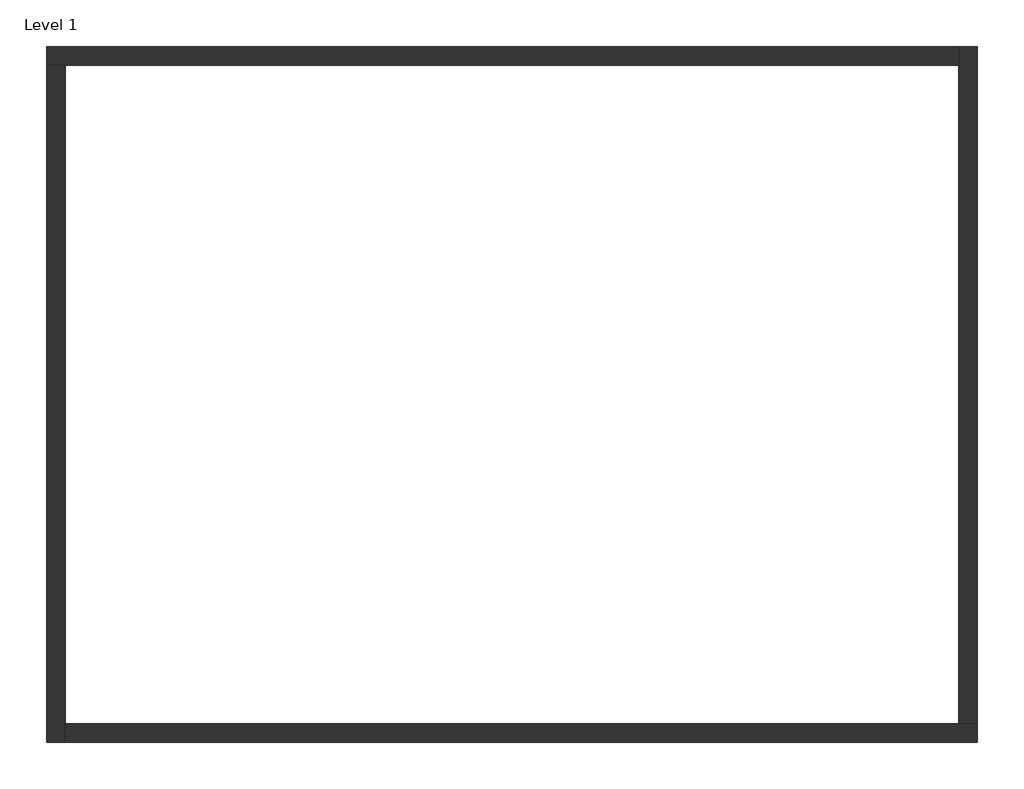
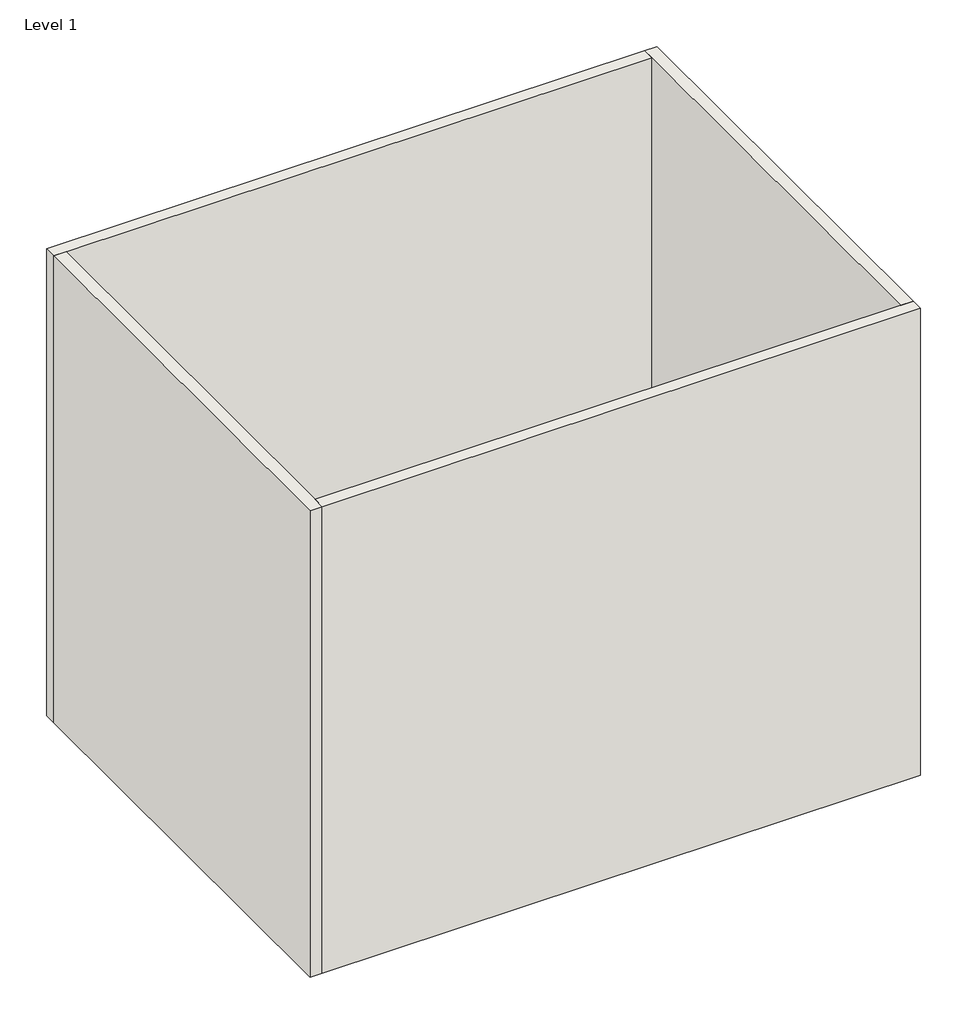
# One storey: 4 walls.
"""IFC4 building model written with IfcOpenShell, lengths in millimetres."""

from ifc_helpers import new_model, si_unit, origin, place, context, project, spatial, faceted_brep, element, save

model = new_model("IFC4")

# Units and contexts
model_context = context("Model", 3, world=origin())
ifc_project = project(units=[si_unit("LENGTHUNIT", "METRE", prefix="MILLI")], contexts=[model_context])

# Site, building, storey
site = spatial("IfcSite", under=ifc_project)
building = spatial("IfcBuilding", under=site)
storey = spatial("IfcBuildingStorey", under=building, Name="Level 1", Elevation=0.0)

# Walls
placement = place(None, origin())
element("IfcWall", 1, ObjectType="Generic - 200mm", at=placement, inside=storey, context=model_context, shape_type="Brep", body=[
    faceted_brep([(-5265.5497288, 5295.8211833, 0.0), (-5065.5497288, 5295.8211833, 0.0), (4434.4502712, 5295.8211833, 0.0), (4434.4502712, 5295.8211833, 8000.0), (-5065.5497288, 5295.8211833, 8000.0), (-5265.5497288, 5295.8211833, 8000.0), (-5265.5497288, 5495.8211833, 0.0), (-5265.5497288, 5495.8211833, 8000.0), (4434.4502712, 5495.8211833, 8000.0), (4434.4502712, 5495.8211833, 0.0)], [[[0, 1, 2, 3, 4, 5]], [[6, 7, 8, 9]], [[2, 1, 0, 6, 9]], [[5, 4, 3, 8, 7]], [[0, 5, 7, 6]], [[3, 2, 9, 8]]]),
])
element("IfcWall", 2, ObjectType="Generic - 200mm", at=placement, inside=storey, context=model_context, shape_type="Brep", body=[
    faceted_brep([(-5065.5497288, -1904.1788167, 0.0), (-5065.5497288, -1704.1788167, 0.0), (-5065.5497288, 5295.8211833, 0.0), (-5065.5497288, 5295.8211833, 8000.0), (-5065.5497288, -1704.1788167, 8000.0), (-5065.5497288, -1904.1788167, 8000.0), (-5265.5497288, -1904.1788167, 0.0), (-5265.5497288, -1904.1788167, 8000.0), (-5265.5497288, 5295.8211833, 8000.0), (-5265.5497288, 5295.8211833, 0.0)], [[[0, 1, 2, 3, 4, 5]], [[6, 7, 8, 9]], [[2, 1, 0, 6, 9]], [[5, 4, 3, 8, 7]], [[0, 5, 7, 6]], [[3, 2, 9, 8]]]),
])
element("IfcWall", 3, ObjectType="Generic - 200mm", at=placement, inside=storey, context=model_context, shape_type="Brep", body=[
    faceted_brep([(4634.4502712, -1704.1788167, 0.0), (4434.4502712, -1704.1788167, 0.0), (-5065.5497288, -1704.1788167, 0.0), (-5065.5497288, -1704.1788167, 8000.0), (4434.4502712, -1704.1788167, 8000.0), (4634.4502712, -1704.1788167, 8000.0), (4634.4502712, -1904.1788167, 0.0), (4634.4502712, -1904.1788167, 8000.0), (-5065.5497288, -1904.1788167, 8000.0), (-5065.5497288, -1904.1788167, 0.0)], [[[0, 1, 2, 3, 4, 5]], [[6, 7, 8, 9]], [[2, 1, 0, 6, 9]], [[5, 4, 3, 8, 7]], [[0, 5, 7, 6]], [[3, 2, 9, 8]]]),
])
element("IfcWall", 4, ObjectType="Generic - 200mm", at=placement, inside=storey, context=model_context, shape_type="Brep", body=[
    faceted_brep([(4434.4502712, 5495.8211833, 0.0), (4434.4502712, 5295.8211833, 0.0), (4434.4502712, -1704.1788167, 0.0), (4434.4502712, -1704.1788167, 8000.0), (4434.4502712, 5295.8211833, 8000.0), (4434.4502712, 5495.8211833, 8000.0), (4634.4502712, 5495.8211833, 0.0), (4634.4502712, 5495.8211833, 8000.0), (4634.4502712, -1704.1788167, 8000.0), (4634.4502712, -1704.1788167, 0.0)], [[[0, 1, 2, 3, 4, 5]], [[6, 7, 8, 9]], [[2, 1, 0, 6, 9]], [[5, 4, 3, 8, 7]], [[0, 5, 7, 6]], [[3, 2, 9, 8]]]),
])

save(model, "model.ifc")
